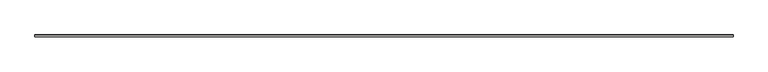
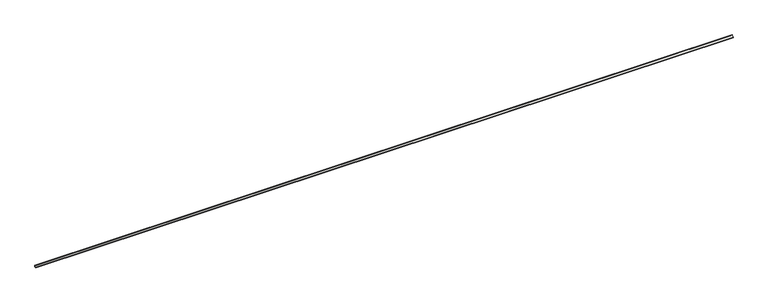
"""IFC4 building model written with IfcOpenShell, lengths in millimetres: slab geometry, ROSA GRES_112 : Pieza 112_Aqua_Marino_Liso."""

from ifc_helpers import new_model, si_unit, point, frame, frame_2d, origin, place, context, project, spatial, polyline, circle_curve, trimmed, segment, composite_curve, outline, extrude, source, transform, mapped, element, save


def slab_f294360b(model_context):
    return source(origin(), model_context, "Body", "SweptSolid", [
        extrude(outline(composite_curve([segment(polyline([(0.0, 8.7114978), (-8.7114978, 0.0), (-40.0, 0.0), (-40.0, 9.9734114)]), True, "CONTINUOUS"), segment(trimmed(circle_curve(frame_2d((-39.9955547, 39.9955547)), 30.0221435), [point((-40.0, 9.9734114))], [point((-9.9734114, 40.0))], True, "CARTESIAN"), True, "CONTINUOUS"), segment(polyline([(-9.9734114, 40.0), (0.0, 40.0), (0.0, 8.7114978)]), True, "CONTINUOUS")], self_intersect=False)), frame((0.0, 0.0, 0.0), z_axis=(1.0, 0.0, 0.0), x_axis=(0.0, 1.0, 0.0)), (0.0, 0.0, 1.0), 16256.4968489),
    ])


if __name__ == "__main__":
    model = new_model("IFC4")
    model_context = context("Model", 3, world=origin())
    ifc_project = project(units=[si_unit("LENGTHUNIT", "METRE", prefix="MILLI")], contexts=[model_context])
    site = spatial("IfcSite", under=ifc_project)
    building = spatial("IfcBuilding", under=site)
    placement = place(None, origin())
    slab_shape = slab_f294360b(model_context)
    element("IfcSlab", 1, ObjectType="ROSA GRES_112 : Pieza 112_Aqua_Marino_Liso", at=placement, inside=building, context=model_context, shape_type="MappedRepresentation", body=[
        mapped(slab_shape, transform((0.0, 0.0, 0.0), x_axis=(1.0, 0.0, 0.0), y_axis=(0.0, 1.0, 0.0), z_axis=(0.0, 0.0, 1.0))),
    ])
    save(model, "model.ifc")
